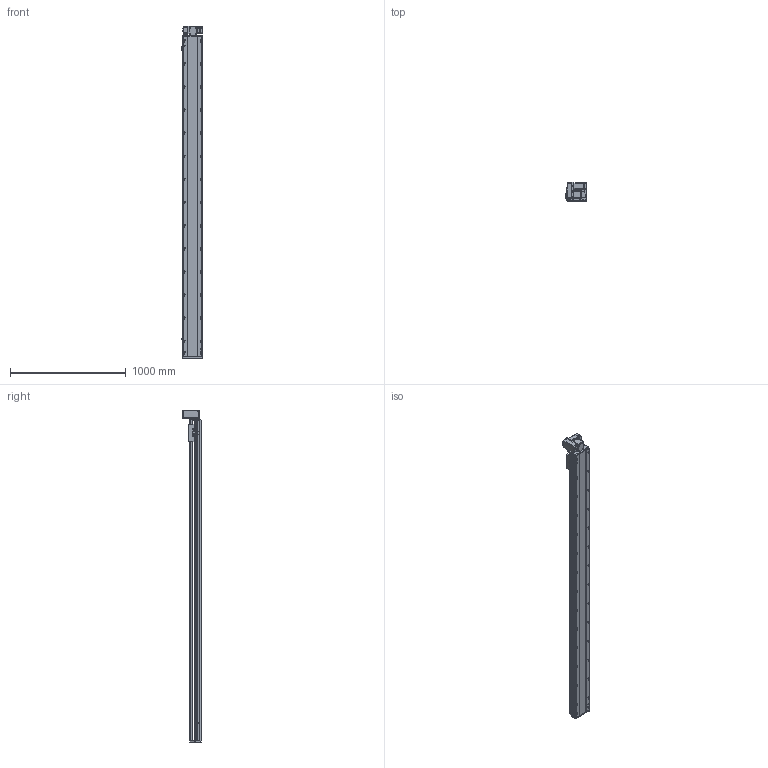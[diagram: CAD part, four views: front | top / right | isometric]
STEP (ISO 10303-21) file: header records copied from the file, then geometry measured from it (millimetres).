
FILE_DESCRIPTION (( 'STEP AP214' ), '1' );
FILE_NAME ('RTB17S-XX-2500-LW-M40-C4.STEP', '2025-12-11T07:17:24', ( '' ), ( '' ), 'SwSTEP 2.0', 'SolidWorks 2018', '' );
FILE_SCHEMA (( 'AUTOMOTIVE_DESIGN' ));
Length unit declared in the file: millimetre
Products named in the file (14): RTB17S-L-004佪裝蹟譫蟀諉釱^RTB17S-XX-XX-LW-M40-C4; RTB14-L-017P^RTB17S-LW-々湍釱蚾饜-400W_RTB17S-XX-XX-LW-M40-C4; RTB14-L-008-M20--萇儂啣^RTB17S-LW-々湍釱蚾饜-400W_RTB17S-XX-XX-LW-M40-C4; RTB17-R-011菁釱^RTB17S-XX-XX-LW-M40-C4; RTB17S-L-014-T20--々湍釱^RTB17S-LW-々湍釱蚾饜-400W_RTB17S-XX-XX-LW-M40-C4; OMRON EE-SX672 传感器^RTB17S-XX-XX-LW-M40-C4; RTB17S-L-007奻裔^RTB17S-XX-XX-LW-M40-C4; 400W侜督萇儂^RTB17S-XX-XX-LW-M40-C4; RTB17S-L-001耜醱啣^RTB17S-XX-XX-LW-M40-C4; RTB17S-XX-2500-LW-M40-C4; RTB17S-LW-々湍釱蚾饜-400W^RTB17S-XX-XX-LW-M40-C4; RTB14-L-018P^RTB17S-LW-々湍釱蚾饜-400W_RTB17S-XX-XX-LW-M40-C4; RTB14-L-005P--轴承塑胶压盖^RTB17S-LW-皮带座装配-400W_RTB17S-XX-XX-LW-M40-C4; RTH13-BL-012覜茼え俋离^RTB17S-XX-XX-LW-M40-C4
Assembly tree (16 placements, depth 3):
  RTB17S-XX-2500-LW-M40-C4
    RTB17-R-011菁釱^RTB17S-XX-XX-LW-M40-C4
    RTB17S-L-007奻裔^RTB17S-XX-XX-LW-M40-C4
    OMRON EE-SX672 传感器^RTB17S-XX-XX-LW-M40-C4  x3
    RTB17S-L-001耜醱啣^RTB17S-XX-XX-LW-M40-C4
    400W侜督萇儂^RTB17S-XX-XX-LW-M40-C4
    RTB17S-L-004佪裝蹟譫蟀諉釱^RTB17S-XX-XX-LW-M40-C4
    RTH13-BL-012覜茼え俋离^RTB17S-XX-XX-LW-M40-C4
    RTB17S-LW-々湍釱蚾饜-400W^RTB17S-XX-XX-LW-M40-C4
      RTB17S-L-014-T20--々湍釱^RTB17S-LW-々湍釱蚾饜-400W_RTB17S-XX-XX-LW-M40-C4
      RTB14-L-005P--轴承塑胶压盖^RTB17S-LW-皮带座装配-400W_RTB17S-XX-XX-LW-M40-C4
      RTB14-L-008-M20--萇儂啣^RTB17S-LW-々湍釱蚾饜-400W_RTB17S-XX-XX-LW-M40-C4
      RTB14-L-017P^RTB17S-LW-々湍釱蚾饜-400W_RTB17S-XX-XX-LW-M40-C4  x2
      RTB14-L-018P^RTB17S-LW-々湍釱蚾饜-400W_RTB17S-XX-XX-LW-M40-C4
Bounding box: 186 x 160.5 x 2872.5 mm (x, y, z)
Volume: 24604101.7 mm3; surface area: 2832901.2 mm2
Topology: 15 solids, 15 shells, 2333 faces, 6519 edges, 4257 vertices
Faces by surface type: plane 1084, cylinder 801, bspline 301, cone 139, torus 8
Entity records: 68777 total; most frequent: CARTESIAN_POINT 19524, ORIENTED_EDGE 9882, DIRECTION 9116, EDGE_CURVE 4941, VERTEX_POINT 3245, AXIS2_PLACEMENT_3D 3175, LINE 2766, VECTOR 2766
